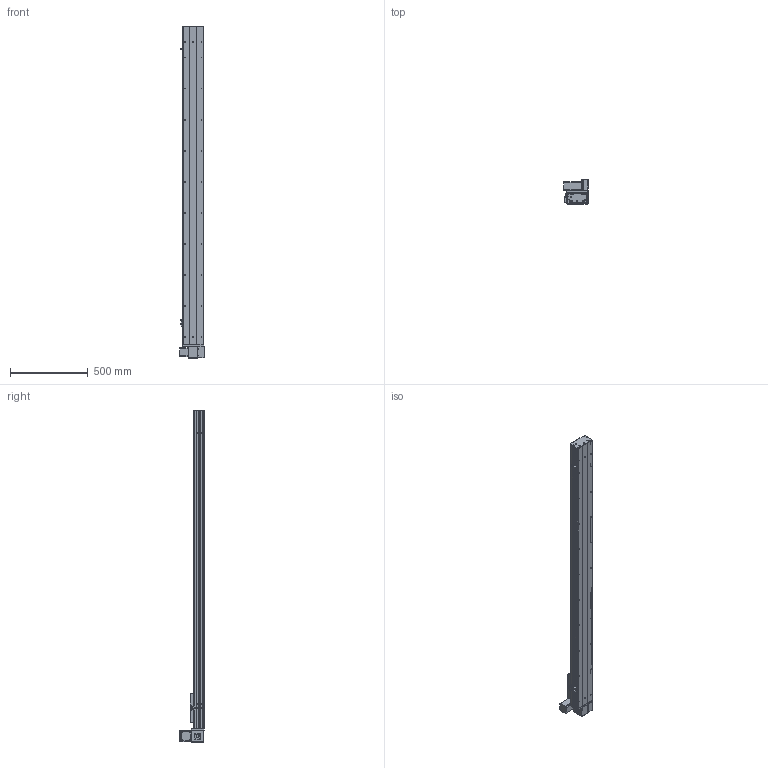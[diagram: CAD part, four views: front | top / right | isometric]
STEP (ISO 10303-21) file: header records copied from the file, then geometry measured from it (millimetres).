
FILE_DESCRIPTION (( 'STEP AP203' ), '1' );
FILE_NAME ('Y135CB-D90-S1750-UL-P400W.STEP', '2020-02-18T07:43:38', ( '微软用户' ), ( '微软中国' ), 'SwSTEP 2.0', 'SolidWorks 2017', '' );
FILE_SCHEMA (( 'CONFIG_CONTROL_DESIGN' ));
Length unit declared in the file: millimetre
Products named in the file (18): C-雄赽釱--; 0B-萇儂楊擘啣; Y10B-耜蚾蟀諉啣----; san松下电机400不带刹车----; 00B-俋欶BM--; 5CB --掛极耜裔啣-; Y10B--々湍喘謫眊--666; C-詩湍揤踡え-陔; Y135CB-耜裔; Y135CB-D90-S1750-UL-P400W; 135CB--詩湍-CE; 135CB---遴掛极.-; Y100-135俋离換覜ん--; 35CB---喘謫眊楊擘啣; Y135C-陔俋离換覜結え-; 0B-埴倛裔啣; 5C--俋欶; 0B-源倛裔啣
Assembly tree (21 placements, depth 2):
  Y135CB-D90-S1750-UL-P400W
    Y135CB-耜裔
    135CB---遴掛极.-
    35CB---喘謫眊楊擘啣
    0B-埴倛裔啣
    0B-源倛裔啣
    0B-萇儂楊擘啣
    san松下电机400不带刹车----
    5CB --掛极耜裔啣-  x2
    C-詩湍揤踡え-陔  x2
    135CB--詩湍-CE
    Y100-135俋离換覜ん--  x3
    Y135C-陔俋离換覜結え-
    5C--俋欶
    C-雄赽釱--
    Y10B-耜蚾蟀諉啣----
    00B-俋欶BM--
    Y10B--々湍喘謫眊--666
Bounding box: 157 x 158.7 x 2138 mm (x, y, z)
Volume: 6334079.2 mm3; surface area: 2498137.6 mm2
Topology: 21 solids, 21 shells, 961 faces, 2599 edges, 1722 vertices
Faces by surface type: cylinder 489, plane 456, cone 16
Entity records: 30157 total; most frequent: DIRECTION 5011, CARTESIAN_POINT 4988, ORIENTED_EDGE 4674, EDGE_CURVE 2337, AXIS2_PLACEMENT_3D 1833, VERTEX_POINT 1550, LINE 1345, VECTOR 1345
